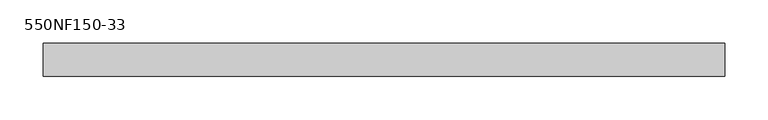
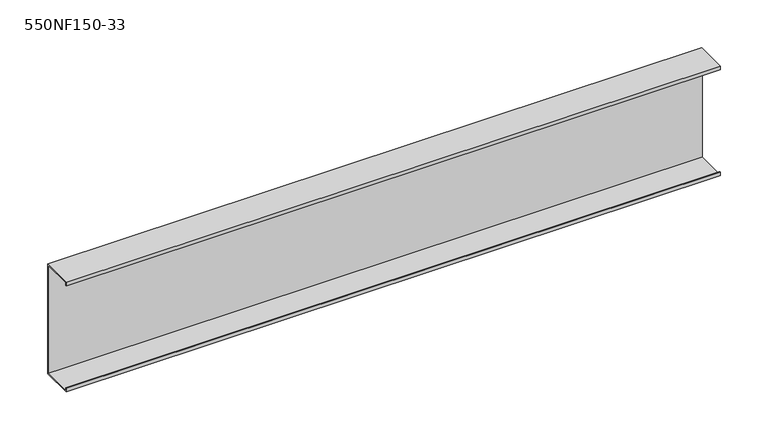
"""IFC4 building model written with IfcOpenShell, lengths in millimetres: beam geometry, BIMSF-SSMA-S : 550NF150-33."""

from ifc_helpers import new_model, si_unit, frame, origin, place, context, project, spatial, polyline, outline, extrude, source, transform, mapped, element, save


def beam_550nf150_33_392b54dc(model_context):
    return source(origin(), model_context, "Body", "SweptSolid", [
        extrude(outline(polyline([(19.05, 69.85), (19.05, -69.85), (-19.05, -69.85), (-19.05, -65.0748), (-18.1676842, -65.0748), (-18.1676842, -68.9676842), (18.1676842, -68.9676842), (18.1676842, 68.9676842), (-18.1676842, 68.9676842), (-18.1676842, 65.0748), (-19.05, 65.0748), (-19.05, 69.85), (19.05, 69.85)])), frame((-393.7, 0.0, 0.0), z_axis=(1.0, 0.0, 0.0), x_axis=(0.0, 1.0, 0.0)), (0.0, 0.0, 1.0), 787.4),
    ])


if __name__ == "__main__":
    model = new_model("IFC4")
    model_context = context("Model", 3, world=origin())
    ifc_project = project(units=[si_unit("LENGTHUNIT", "METRE", prefix="MILLI")], contexts=[model_context])
    site = spatial("IfcSite", under=ifc_project)
    building = spatial("IfcBuilding", under=site)
    placement = place(None, origin())
    beam_550nf150_33_shape = beam_550nf150_33_392b54dc(model_context)
    element("IfcBeam", 1, ObjectType="BIMSF-SSMA-S : 550NF150-33", at=placement, inside=building, context=model_context, shape_type="MappedRepresentation", body=[
        mapped(beam_550nf150_33_shape, transform((0.0, 0.0, 0.0), x_axis=(1.0, 0.0, 0.0), y_axis=(0.0, 1.0, 0.0), z_axis=(0.0, 0.0, 1.0))),
    ])
    save(model, "model.ifc")
